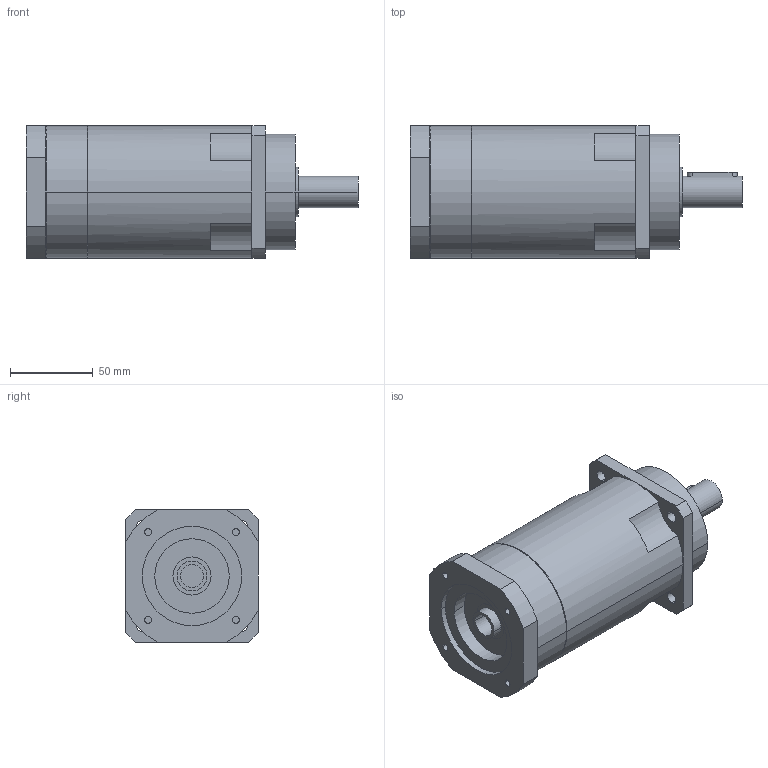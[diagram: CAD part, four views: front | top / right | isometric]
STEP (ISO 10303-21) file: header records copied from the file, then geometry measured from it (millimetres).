
FILE_DESCRIPTION(('CoCreate Modeling STEP Export'),'2;1');
FILE_NAME('GPR100_ig-48-64-80-100-120-144-180-216_19_B5_14_P23.stp','2014-08-26T11:54:46',(''),(''),'CoCreate Modeling STEP processor for AP214 (Solid Model)','CoCreate Modeling 16.00C 25-Feb-2009 (C) Parametric Technology GmbH','');
FILE_SCHEMA(('AUTOMOTIVE_DESIGN { 1 0 10303 214 1 1 1 1 }'));
Length unit declared in the file: millimetre
Products named in the file (2): GPR100_ig-48-64-80-100-120-144-180-216_19_B5_14_P23
Assembly tree (1 placements, depth 2):
  GPR100_ig-48-64-80-100-120-144-180-216_19_B5_14_P23
    GPR100_ig-48-64-80-100-120-144-180-216_19_B5_14_P23
Bounding box: 200.4 x 80 x 80 mm (x, y, z)
Volume: 790126.1 mm3; surface area: 63394.7 mm2
Topology: 1 solids, 1 shells, 93 faces, 245 edges, 167 vertices
Faces by surface type: cylinder 52, plane 35, cone 6
Entity records: 2606 total; most frequent: ORIENTED_EDGE 486, CARTESIAN_POINT 472, DIRECTION 386, EDGE_CURVE 243, VERTEX_POINT 167, AXIS2_PLACEMENT_3D 145, EDGE_LOOP 116, VECTOR 96
